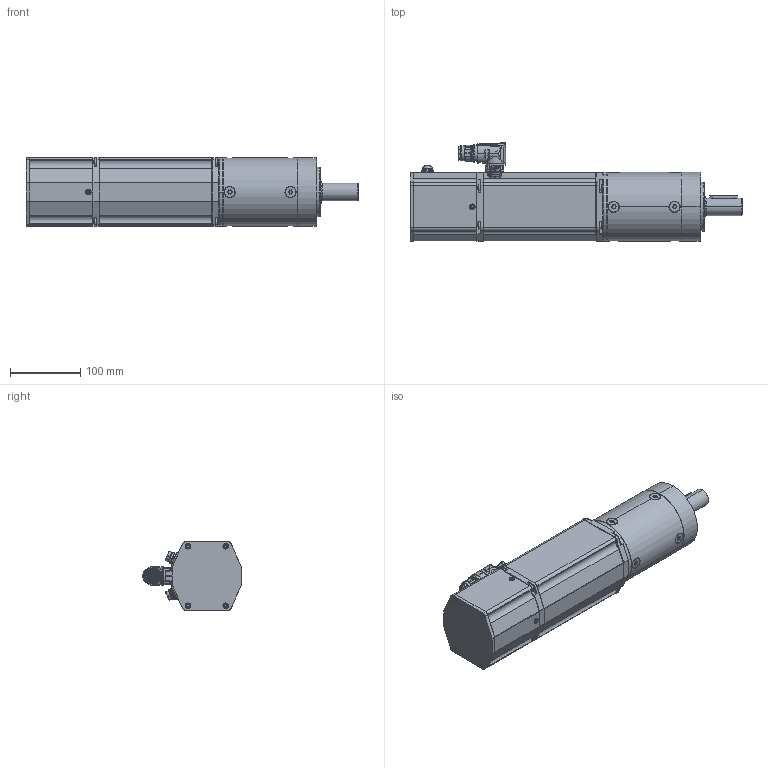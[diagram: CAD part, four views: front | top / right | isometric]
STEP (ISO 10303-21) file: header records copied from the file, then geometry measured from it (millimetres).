
FILE_DESCRIPTION((''),'2;1');
FILE_NAME('9659503131_SW0001','2018-10-05T',('HMeister'),(''),'CREO PARAMETRIC BY PTC INC, 2016050','CREO PARAMETRIC BY PTC INC, 2016050','');
FILE_SCHEMA(('CONFIG_CONTROL_DESIGN'));
Products named in the file (1): 9659503131_SW0001
Bounding box: 473.45 x 140.3 x 98 mm (x, y, z)
Volume: 1518564.7 mm3; surface area: 390758.5 mm2
Topology: 3 solids, 8 shells, 3691 faces, 9431 edges, 5906 vertices
Faces by surface type: cylinder 1182, plane 817, bspline 786, cone 443, torus 427, sphere 36
Entity records: 148778 total; most frequent: CARTESIAN_POINT 64563, ORIENTED_EDGE 18738, DIRECTION 16346, EDGE_CURVE 9369, AXIS2_PLACEMENT_3D 6760, VERTEX_POINT 5903, EDGE_LOOP 3940, CIRCLE 3855
